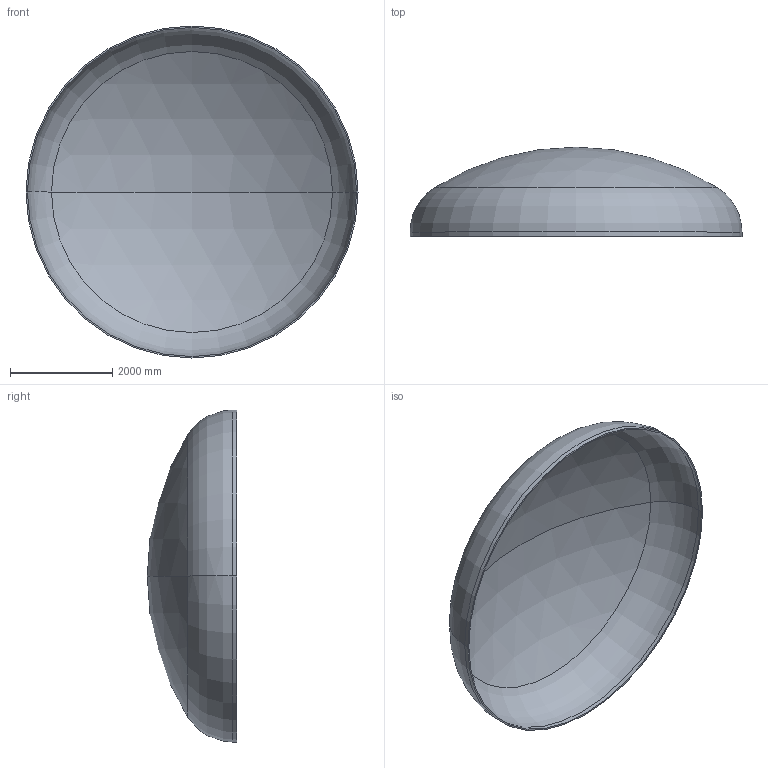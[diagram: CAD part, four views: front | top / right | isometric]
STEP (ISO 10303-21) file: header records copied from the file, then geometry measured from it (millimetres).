
FILE_DESCRIPTION (( 'STEP AP203' ), '1' );
FILE_NAME ('DIN 28013 Korbbogenform_-_Boden DIN 28013 - 6500 x 85 - I - s=28.step', '2016-07-04T10:40:58', ( '' ), ( '' ), 'SwSTEP 2.0', 'SolidWorks 2013', '' );
FILE_SCHEMA (( 'CONFIG_CONTROL_DESIGN' ));
Length unit declared in the file: millimetre
Products named in the file (1): DIN 28013 Korbbogenform_-_Boden DIN 28013 - 6500 x 85 - I - s=28
Bounding box: 6500 x 1748.91 x 6500 mm (x, y, z)
Volume: 1327719918.4 mm3; surface area: 95408047.9 mm2
Topology: 1 solids, 1 shells, 13 faces, 24 edges, 14 vertices
Faces by surface type: torus 4, cylinder 4, sphere 4, plane 1
Entity records: 407 total; most frequent: DIRECTION 72, CARTESIAN_POINT 52, ORIENTED_EDGE 48, AXIS2_PLACEMENT_3D 34, EDGE_CURVE 24, CIRCLE 20, EDGE_LOOP 14, VERTEX_POINT 14
